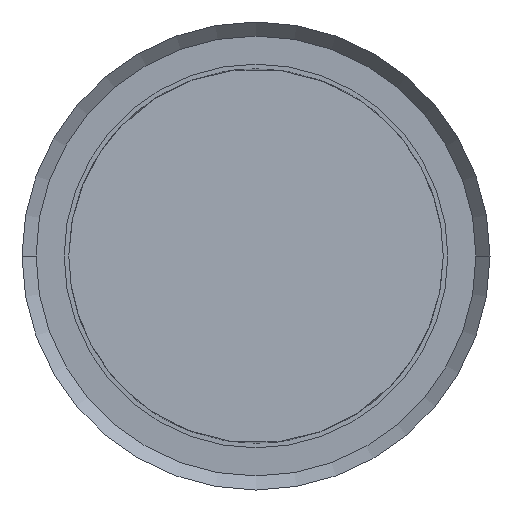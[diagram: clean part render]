
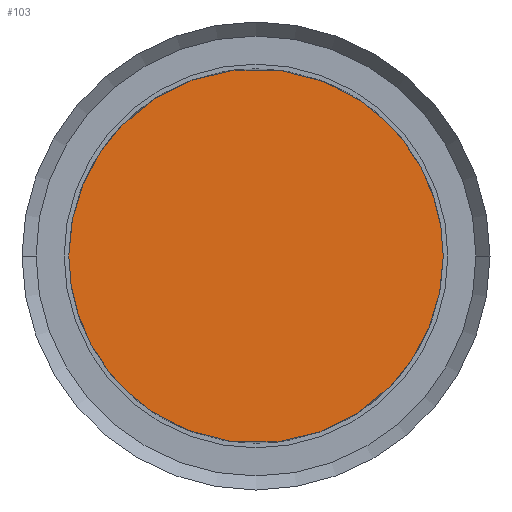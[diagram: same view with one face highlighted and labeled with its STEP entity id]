
A CAD part, front view. The second image highlights one B-rep face of the part: STEP entity #103.
In plain terms, the highlighted planar face has unit normal (0.707, -0.707, 0).
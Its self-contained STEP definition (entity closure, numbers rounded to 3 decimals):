
#1=CARTESIAN_POINT('',(4.,8.,0.));
#2=CARTESIAN_POINT('',(4.,8.,-0.236));
#3=CARTESIAN_POINT('',(3.958,7.958,-0.725));
#4=CARTESIAN_POINT('',(3.746,7.746,-1.477));
#5=CARTESIAN_POINT('',(3.373,7.373,-2.202));
#6=CARTESIAN_POINT('',(2.849,6.849,-2.849));
#7=CARTESIAN_POINT('',(2.202,6.202,-3.373));
#8=CARTESIAN_POINT('',(1.598,5.598,-3.684));
#9=CARTESIAN_POINT('',(1.101,5.101,-3.852));
#10=CARTESIAN_POINT('',(0.727,4.727,-3.939));
#11=CARTESIAN_POINT('',(0.42,4.42,-3.981));
#12=CARTESIAN_POINT('',(0.178,4.178,-3.997));
#13=CARTESIAN_POINT('',(0.,4.,-4.001));
#14=CARTESIAN_POINT('',(-0.178,3.822,-3.997));
#15=CARTESIAN_POINT('',(-0.42,3.58,-3.981));
#16=CARTESIAN_POINT('',(-0.727,3.273,-3.939));
#17=CARTESIAN_POINT('',(-1.101,2.899,-3.852));
#18=CARTESIAN_POINT('',(-1.598,2.402,-3.684));
#19=CARTESIAN_POINT('',(-2.202,1.798,-3.373));
#20=CARTESIAN_POINT('',(-2.849,1.151,-2.849));
#21=CARTESIAN_POINT('',(-3.373,0.627,-2.202));
#22=CARTESIAN_POINT('',(-3.746,0.254,-1.477));
#23=CARTESIAN_POINT('',(-3.958,0.042,
-0.725));
#24=CARTESIAN_POINT('',(-4.,0.,-0.236));
#25=CARTESIAN_POINT('',(-4.,0.,0.));
#36=CARTESIAN_POINT('',(-4.,0.,0.));
#37=CARTESIAN_POINT('',(-4.,0.,0.236));
#38=CARTESIAN_POINT('',(-3.958,0.042,0.725));
#39=CARTESIAN_POINT('',(-3.746,0.254,1.477));
#40=CARTESIAN_POINT('',(-3.373,0.627,2.202));
#41=CARTESIAN_POINT('',(-2.849,1.151,2.849));
#42=CARTESIAN_POINT('',(-2.202,1.798,3.373));
#43=CARTESIAN_POINT('',(-1.598,2.402,3.684));
#44=CARTESIAN_POINT('',(-1.101,2.899,3.852));
#45=CARTESIAN_POINT('',(-0.727,3.273,3.939));
#46=CARTESIAN_POINT('',(-0.42,3.58,3.981));
#47=CARTESIAN_POINT('',(-0.178,3.822,3.997));
#48=CARTESIAN_POINT('',(0.,4.,4.001));
#49=CARTESIAN_POINT('',(0.178,4.178,3.997));
#50=CARTESIAN_POINT('',(0.42,4.42,3.981));
#51=CARTESIAN_POINT('',(0.727,4.727,3.939));
#52=CARTESIAN_POINT('',(1.101,5.101,3.852));
#53=CARTESIAN_POINT('',(1.598,5.598,3.684));
#54=CARTESIAN_POINT('',(2.202,6.202,3.373));
#55=CARTESIAN_POINT('',(2.849,6.849,2.849));
#56=CARTESIAN_POINT('',(3.373,7.373,2.202));
#57=CARTESIAN_POINT('',(3.746,7.746,1.477));
#58=CARTESIAN_POINT('',(3.958,7.958,0.725));
#59=CARTESIAN_POINT('',(4.,8.,0.236));
#60=CARTESIAN_POINT('',(4.,8.,0.));
#75=VERTEX_POINT('',#1);
#76=VERTEX_POINT('',#25);
#93=CARTESIAN_POINT('',(4.,8.,-7.));
#94=DIRECTION('',(-0.707,0.707,0.));
#95=DIRECTION('',(-0.707,-0.707,0.));
#96=AXIS2_PLACEMENT_3D('',#93,#94,#95);
#97=PLANE('',#96);
#98=ORIENTED_EDGE('',*,*,#82,.T.);
#100=ORIENTED_EDGE('',*,*,#99,.T.);
#101=EDGE_LOOP('',(#98,#100));
#102=FACE_OUTER_BOUND('',#101,.F.);
#103=ADVANCED_FACE('',(#102),#97,.F.);
#26=B_SPLINE_CURVE_WITH_KNOTS('',3,(#1,#2,#3,#4,#5,#6,#7,#8,#9,#10,#11,#12,#13,
#14,#15,#16,#17,#18,#19,#20,#21,#22,#23,#24,#25),.UNSPECIFIED.,.F.,.F.,(4,1,1,1,
1,1,1,1,1,1,1,1,1,1,1,1,1,1,1,1,1,1,4),(0.,0.063,0.125,0.188,0.25,
0.313,0.375,0.406,0.438,0.469,0.484,0.5,0.516,
0.531,0.563,0.594,0.625,0.688,0.75,0.813,0.875,0.938,
1.),.UNSPECIFIED.);
#61=B_SPLINE_CURVE_WITH_KNOTS('',3,(#36,#37,#38,#39,#40,#41,#42,#43,#44,#45,#46,
#47,#48,#49,#50,#51,#52,#53,#54,#55,#56,#57,#58,#59,#60),.UNSPECIFIED.,.F.,.F.,(
4,1,1,1,1,1,1,1,1,1,1,1,1,1,1,1,1,1,1,1,1,1,4),(0.,0.063,0.125,0.188,
0.25,0.313,0.375,0.406,0.438,0.469,0.484,0.5,
0.516,0.531,0.563,0.594,0.625,0.688,0.75,0.813,
0.875,0.938,1.),.UNSPECIFIED.);
#82=EDGE_CURVE('',#75,#76,#26,.T.);
#99=EDGE_CURVE('',#76,#75,#61,.T.);
